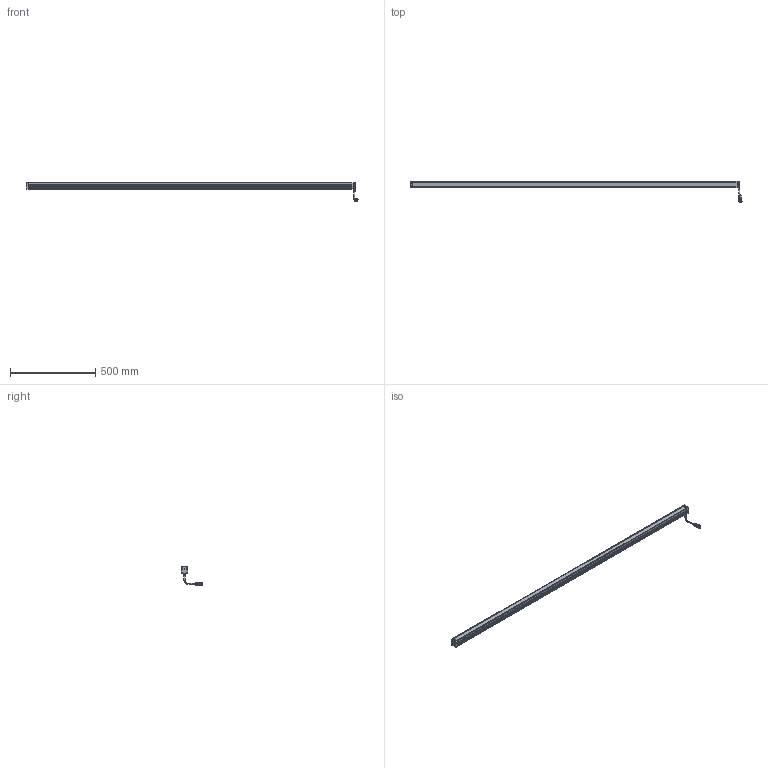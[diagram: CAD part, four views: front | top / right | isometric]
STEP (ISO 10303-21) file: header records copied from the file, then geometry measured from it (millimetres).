
FILE_DESCRIPTION(/* description */ (''),/* implementation_level */ '2;1');
FILE_NAME(/* name */ 'LBHP1900',/* time_stamp */ '2025-01-14T08:11:24+01:00',/* author */ (''),/* organization */ ('iiM AG'),/* preprocessor_version */ 'ST-DEVELOPER v16.7',/* originating_system */ 'DEX',/* authorisation */ $);
FILE_SCHEMA (('AUTOMOTIVE_DESIGN {1 0 10303 214 3 1 1}'));
Length unit declared in the file: millimetre
Products named in the file (1): step export
Bounding box: 1944.79 x 126.2 x 109.58 mm (x, y, z)
Volume: 2456652.6 mm3; surface area: 543593 mm2
Topology: 2 solids, 2 shells, 882 faces, 2334 edges, 1476 vertices
Faces by surface type: cylinder 368, plane 336, cone 138, sphere 21, torus 16, bspline 3
Full cylindrical faces by diameter (mm): 1.001 x12, 2.693 x4, 3 x2, 3.1 x4, 3.242 x6, 3.8 x8, 5.6 x8, 6 x8, 6.8 x2, 8.008 x1, 10 x1, 11 x1, 12.9 x2, 14 x1, 15.015 x1, 16.016 x1, 17.518 x1, 18.519 x3, 18.619 x2
Entity records: 32582 total; most frequent: CARTESIAN_POINT 6224, ORIENTED_EDGE 4118, DIRECTION 4048, EDGE_CURVE 2059, AXIS2_PLACEMENT_3D 1523, VERTEX_POINT 1383, FACE_BOUND 1100, EDGE_LOOP 1086
